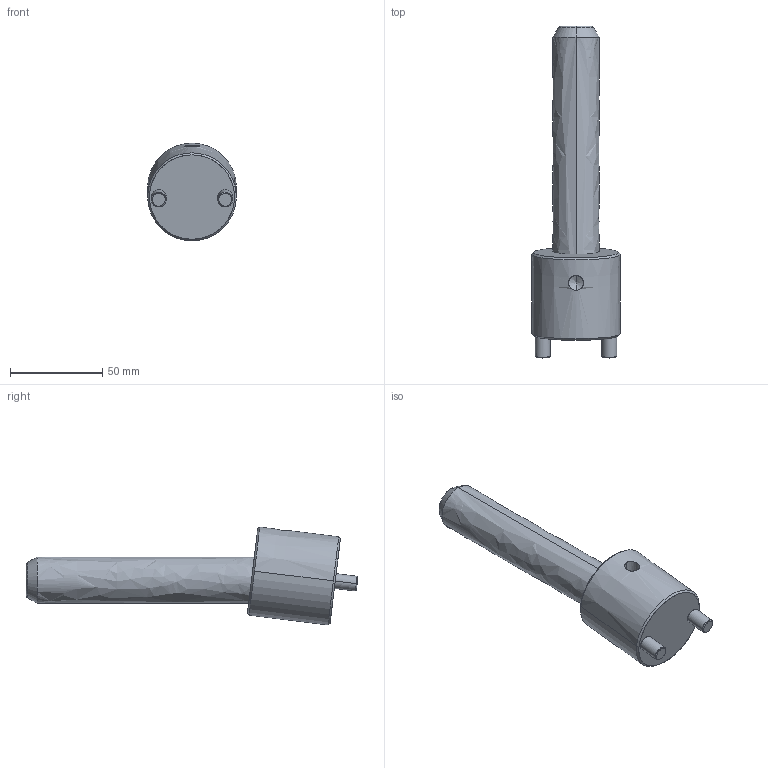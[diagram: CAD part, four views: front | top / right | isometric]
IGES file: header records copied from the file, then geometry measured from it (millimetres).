
Start section: START RECORD GO HERE.
Global section: file name: CI0725125.igs; native system: DASSAULT SYSTEMES CATIA V5 R20 - www.3ds.com; preprocessor: CATIA Version 5 Release 20 ; author: r.borello; organization: CFTORINO; date: 20190624.091001; units: millimetre
Bounding box: 48 x 179.61 x 52.88 mm (x, y, z)
Surface area: 27441.6 mm2 (no closed solid volume)
Topology: 0 solids, 0 shells, 39 faces, 162 edges, 160 vertices
Faces by surface type: revolution 32, plane 7
